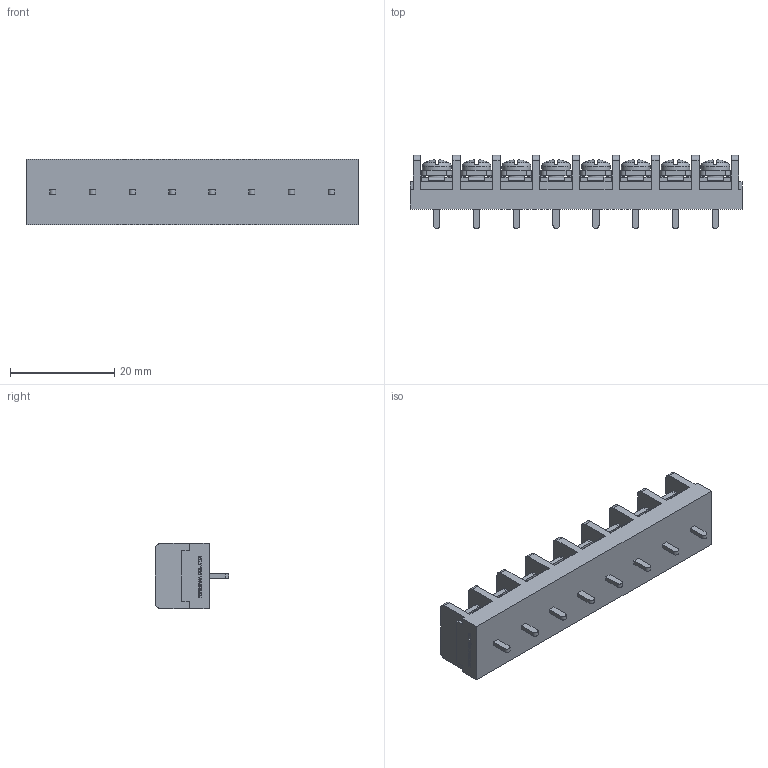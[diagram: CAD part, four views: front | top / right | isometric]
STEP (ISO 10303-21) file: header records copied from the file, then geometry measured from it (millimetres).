
FILE_DESCRIPTION(/* description */ ('Alibre Inc.'),/* implementation_level */ '2;1');
FILE_NAME(/* name */ 'export0',/* time_stamp */ '2015-10-26T16:48:44+09:00',/* author */ (''),/* organization */ (''),/* preprocessor_version */ 'ST-DEVELOPER v14',/* originating_system */ 'Alibre',/* authorisation */ '');
FILE_SCHEMA (('CONFIG_CONTROL_DESIGN'));
Length unit declared in the file: centimetre
Products named in the file (1): ID_1
Bounding box: 63.58 x 14 x 12.5 mm (x, y, z)
Volume: 5750.1 mm3; surface area: 5232 mm2
Topology: 1 solids, 1 shells, 1154 faces, 3160 edges, 2080 vertices
Faces by surface type: plane 896, bspline 104, cylinder 90, cone 32, torus 16, sphere 16
Full cylindrical faces by diameter (mm): 3 x8, 5.5 x8
Entity records: 34677 total; most frequent: CARTESIAN_POINT 7579, ORIENTED_EDGE 6224, DIRECTION 4242, EDGE_CURVE 3112, VECTOR 2244, LINE 2244, VERTEX_POINT 2064, AXIS2_PLACEMENT_3D 1415
